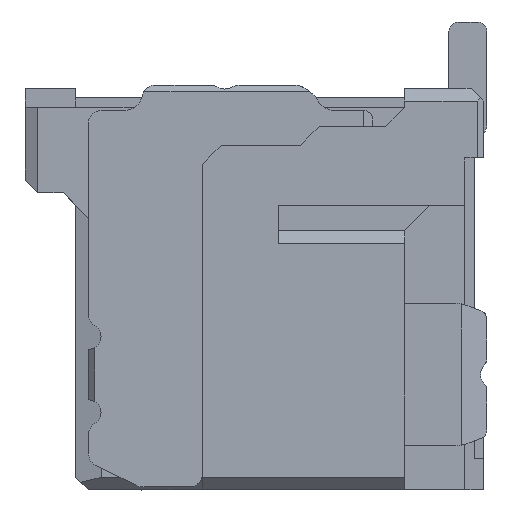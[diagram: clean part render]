
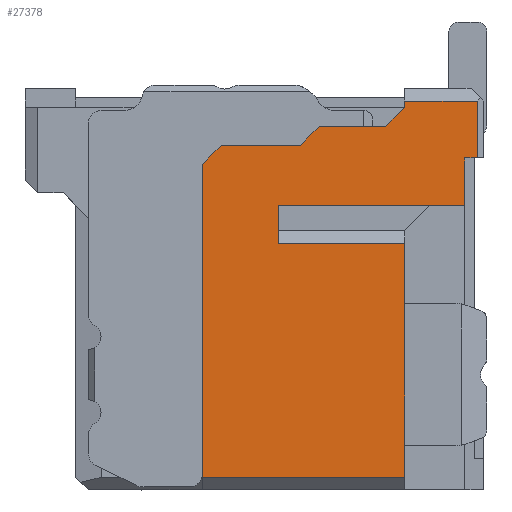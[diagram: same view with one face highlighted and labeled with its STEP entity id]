
A CAD part, front view. The second image highlights one B-rep face of the part: STEP entity #27378.
In plain terms, the highlighted planar face has unit normal (0, -1, 0).
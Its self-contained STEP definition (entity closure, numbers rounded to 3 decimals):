
#202 = CARTESIAN_POINT ( 'NONE',  ( 0.325, -8.15, 2.111 ) ) ;
#209 = LINE ( 'NONE', #40656, #2670 ) ;
#487 = VERTEX_POINT ( 'NONE', #17789 ) ;
#784 = VECTOR ( 'NONE', #40547, 1000. ) ;
#817 = VERTEX_POINT ( 'NONE', #23189 ) ;
#1075 = ORIENTED_EDGE ( 'NONE', *, *, #12939, .T. ) ;
#1115 = EDGE_CURVE ( 'NONE', #487, #20376, #3208, .T. ) ;
#1377 = DIRECTION ( 'NONE',  ( -1., 0., 0. ) ) ;
#1619 = LINE ( 'NONE', #37403, #16799 ) ;
#2164 = VERTEX_POINT ( 'NONE', #32056 ) ;
#2358 = CARTESIAN_POINT ( 'NONE',  ( 2.925, -8.15, 1.161 ) ) ;
#2670 = VECTOR ( 'NONE', #23059, 1000. ) ;
#2944 = EDGE_LOOP ( 'NONE', ( #1075, #56045, #49666, #13038, #22117, #18648, #16351, #22314, #38806, #56372, #3204, #36759, #47464, #39930, #52657, #26518 ) ) ;
#3204 = ORIENTED_EDGE ( 'NONE', *, *, #17599, .T. ) ;
#3208 = LINE ( 'NONE', #12878, #30011 ) ;
#3773 = LINE ( 'NONE', #43341, #37746 ) ;
#3778 = EDGE_CURVE ( 'NONE', #817, #20520, #23131, .T. ) ;
#3920 = CARTESIAN_POINT ( 'NONE',  ( 3.125, -8.15, 2.811 ) ) ;
#4023 = EDGE_CURVE ( 'NONE', #11584, #10372, #25441, .T. ) ;
#4215 = EDGE_CURVE ( 'NONE', #20520, #46443, #209, .T. ) ;
#4266 = VERTEX_POINT ( 'NONE', #31548 ) ;
#5079 = CARTESIAN_POINT ( 'NONE',  ( 1.975, -8.15, 2.711 ) ) ;
#5191 = DIRECTION ( 'NONE',  ( -1., 0., 0. ) ) ;
#5193 = VECTOR ( 'NONE', #38975, 1000. ) ;
#5243 = CARTESIAN_POINT ( 'NONE',  ( 2.925, -8.15, 1.911 ) ) ;
#6939 = EDGE_CURVE ( 'NONE', #46183, #57052, #36122, .T. ) ;
#7738 = EDGE_CURVE ( 'NONE', #22492, #11584, #46497, .T. ) ;
#10372 = VERTEX_POINT ( 'NONE', #5079 ) ;
#10667 = DIRECTION ( 'NONE',  ( 0., 0., 1. ) ) ;
#11584 = VERTEX_POINT ( 'NONE', #18645 ) ;
#12878 = CARTESIAN_POINT ( 'NONE',  ( -1.225, -8.15, -3.139 ) ) ;
#12939 = EDGE_CURVE ( 'NONE', #10372, #817, #1619, .T. ) ;
#13038 = ORIENTED_EDGE ( 'NONE', *, *, #55929, .T. ) ;
#13545 = CARTESIAN_POINT ( 'NONE',  ( -0.025, -8.15, 1.161 ) ) ;
#13928 = VECTOR ( 'NONE', #52383, 1000. ) ;
#14045 = EDGE_CURVE ( 'NONE', #4266, #36080, #41531, .T. ) ;
#14439 = CARTESIAN_POINT ( 'NONE',  ( 2.925, -8.15, 1.911 ) ) ;
#14995 = VECTOR ( 'NONE', #40041, 1000. ) ;
#15965 = LINE ( 'NONE', #19463, #20272 ) ;
#16351 = ORIENTED_EDGE ( 'NONE', *, *, #1115, .T. ) ;
#16799 = VECTOR ( 'NONE', #50275, 1000. ) ;
#16995 = VERTEX_POINT ( 'NONE', #13545 ) ;
#17168 = FACE_OUTER_BOUND ( 'NONE', #2944, .T. ) ;
#17567 = VECTOR ( 'NONE', #43141, 1000. ) ;
#17599 = EDGE_CURVE ( 'NONE', #16995, #41160, #3773, .T. ) ;
#17677 = LINE ( 'NONE', #25586, #56789 ) ;
#17789 = CARTESIAN_POINT ( 'NONE',  ( -1.225, -8.15, -3.139 ) ) ;
#18024 = VECTOR ( 'NONE', #27239, 1000. ) ;
#18048 = PLANE ( 'NONE',  #37045 ) ;
#18645 = CARTESIAN_POINT ( 'NONE',  ( 1.975, -8.15, 2.811 ) ) ;
#18648 = ORIENTED_EDGE ( 'NONE', *, *, #53024, .T. ) ;
#19463 = CARTESIAN_POINT ( 'NONE',  ( 3.125, -8.15, 1.911 ) ) ;
#20272 = VECTOR ( 'NONE', #10667, 1000. ) ;
#20376 = VERTEX_POINT ( 'NONE', #42490 ) ;
#20520 = VERTEX_POINT ( 'NONE', #36203 ) ;
#21031 = CARTESIAN_POINT ( 'NONE',  ( 1.975, -8.15, 2.811 ) ) ;
#21583 = CARTESIAN_POINT ( 'NONE',  ( -1.312, -8.15, 2.93 ) ) ;
#22117 = ORIENTED_EDGE ( 'NONE', *, *, #27384, .T. ) ;
#22141 = LINE ( 'NONE', #44706, #43617 ) ;
#22314 = ORIENTED_EDGE ( 'NONE', *, *, #29056, .T. ) ;
#22492 = VERTEX_POINT ( 'NONE', #3920 ) ;
#23059 = DIRECTION ( 'NONE',  ( -0.707, 0., -0.707 ) ) ;
#23131 = LINE ( 'NONE', #40725, #18024 ) ;
#23189 = CARTESIAN_POINT ( 'NONE',  ( 1.675, -8.15, 2.411 ) ) ;
#24942 = CARTESIAN_POINT ( 'NONE',  ( -1.225, -8.15, 1.811 ) ) ;
#25441 = LINE ( 'NONE', #21031, #13928 ) ;
#25586 = CARTESIAN_POINT ( 'NONE',  ( 1.975, -8.15, -3.139 ) ) ;
#26518 = ORIENTED_EDGE ( 'NONE', *, *, #4023, .T. ) ;
#27239 = DIRECTION ( 'NONE',  ( -1., 0., 0. ) ) ;
#27378 = ADVANCED_FACE ( 'NONE', ( #17168 ), #18048, .F. ) ;
#27384 = EDGE_CURVE ( 'NONE', #2164, #28377, #22141, .T. ) ;
#27424 = CARTESIAN_POINT ( 'NONE',  ( 0.325, -8.15, 2.111 ) ) ;
#28377 = VERTEX_POINT ( 'NONE', #49435 ) ;
#28898 = EDGE_CURVE ( 'NONE', #57052, #22492, #15965, .T. ) ;
#28925 = VECTOR ( 'NONE', #1377, 1000. ) ;
#29056 = EDGE_CURVE ( 'NONE', #20376, #4266, #17677, .T. ) ;
#30011 = VECTOR ( 'NONE', #34569, 1000. ) ;
#31548 = CARTESIAN_POINT ( 'NONE',  ( 1.975, -8.15, 0.561 ) ) ;
#31865 = VECTOR ( 'NONE', #5191, 1000. ) ;
#32056 = CARTESIAN_POINT ( 'NONE',  ( -0.925, -8.15, 2.111 ) ) ;
#34361 = EDGE_CURVE ( 'NONE', #41160, #46183, #53294, .T. ) ;
#34569 = DIRECTION ( 'NONE',  ( 1., 0., 0. ) ) ;
#35021 = DIRECTION ( 'NONE',  ( -0.707, 0., -0.707 ) ) ;
#35124 = CARTESIAN_POINT ( 'NONE',  ( 2.925, -8.15, 1.161 ) ) ;
#35440 = CARTESIAN_POINT ( 'NONE',  ( 3.125, -8.15, 1.911 ) ) ;
#36080 = VERTEX_POINT ( 'NONE', #52870 ) ;
#36122 = LINE ( 'NONE', #14439, #784 ) ;
#36203 = CARTESIAN_POINT ( 'NONE',  ( 0.625, -8.15, 2.411 ) ) ;
#36759 = ORIENTED_EDGE ( 'NONE', *, *, #34361, .T. ) ;
#36842 = CARTESIAN_POINT ( 'NONE',  ( 1.975, -8.15, 0.561 ) ) ;
#37045 = AXIS2_PLACEMENT_3D ( 'NONE', #21583, #52887, #43846 ) ;
#37403 = CARTESIAN_POINT ( 'NONE',  ( 1.975, -8.15, 2.711 ) ) ;
#37746 = VECTOR ( 'NONE', #39231, 1000. ) ;
#37779 = EDGE_CURVE ( 'NONE', #36080, #16995, #44279, .T. ) ;
#38455 = LINE ( 'NONE', #24942, #17567 ) ;
#38806 = ORIENTED_EDGE ( 'NONE', *, *, #14045, .T. ) ;
#38975 = DIRECTION ( 'NONE',  ( 0., 0., 1. ) ) ;
#39231 = DIRECTION ( 'NONE',  ( 1., 0., 0. ) ) ;
#39597 = DIRECTION ( 'NONE',  ( 0., 0., 1. ) ) ;
#39930 = ORIENTED_EDGE ( 'NONE', *, *, #28898, .T. ) ;
#40041 = DIRECTION ( 'NONE',  ( -1., 0., 0. ) ) ;
#40547 = DIRECTION ( 'NONE',  ( 1., 0., 0. ) ) ;
#40656 = CARTESIAN_POINT ( 'NONE',  ( 0.625, -8.15, 2.411 ) ) ;
#40725 = CARTESIAN_POINT ( 'NONE',  ( 1.675, -8.15, 2.411 ) ) ;
#41160 = VERTEX_POINT ( 'NONE', #2358 ) ;
#41531 = LINE ( 'NONE', #36842, #31865 ) ;
#42490 = CARTESIAN_POINT ( 'NONE',  ( 1.975, -8.15, -3.139 ) ) ;
#43141 = DIRECTION ( 'NONE',  ( 0., 0., -1. ) ) ;
#43341 = CARTESIAN_POINT ( 'NONE',  ( -0.025, -8.15, 1.161 ) ) ;
#43617 = VECTOR ( 'NONE', #35021, 1000. ) ;
#43846 = DIRECTION ( 'NONE',  ( 1., 0., 0. ) ) ;
#44279 = LINE ( 'NONE', #52480, #47602 ) ;
#44706 = CARTESIAN_POINT ( 'NONE',  ( -0.925, -8.15, 2.111 ) ) ;
#46183 = VERTEX_POINT ( 'NONE', #5243 ) ;
#46443 = VERTEX_POINT ( 'NONE', #202 ) ;
#46497 = LINE ( 'NONE', #55554, #28925 ) ;
#47464 = ORIENTED_EDGE ( 'NONE', *, *, #6939, .T. ) ;
#47602 = VECTOR ( 'NONE', #39597, 1000. ) ;
#49435 = CARTESIAN_POINT ( 'NONE',  ( -1.225, -8.15, 1.811 ) ) ;
#49666 = ORIENTED_EDGE ( 'NONE', *, *, #4215, .T. ) ;
#50275 = DIRECTION ( 'NONE',  ( -0.707, 0., -0.707 ) ) ;
#52235 = DIRECTION ( 'NONE',  ( 0., 0., 1. ) ) ;
#52383 = DIRECTION ( 'NONE',  ( 0., 0., -1. ) ) ;
#52480 = CARTESIAN_POINT ( 'NONE',  ( -0.025, -8.15, 0.561 ) ) ;
#52657 = ORIENTED_EDGE ( 'NONE', *, *, #7738, .T. ) ;
#52870 = CARTESIAN_POINT ( 'NONE',  ( -0.025, -8.15, 0.561 ) ) ;
#52887 = DIRECTION ( 'NONE',  ( 0., 1., 0. ) ) ;
#53024 = EDGE_CURVE ( 'NONE', #28377, #487, #38455, .T. ) ;
#53294 = LINE ( 'NONE', #35124, #5193 ) ;
#54049 = LINE ( 'NONE', #27424, #14995 ) ;
#55554 = CARTESIAN_POINT ( 'NONE',  ( 3.125, -8.15, 2.811 ) ) ;
#55929 = EDGE_CURVE ( 'NONE', #46443, #2164, #54049, .T. ) ;
#56045 = ORIENTED_EDGE ( 'NONE', *, *, #3778, .T. ) ;
#56372 = ORIENTED_EDGE ( 'NONE', *, *, #37779, .T. ) ;
#56789 = VECTOR ( 'NONE', #52235, 1000. ) ;
#57052 = VERTEX_POINT ( 'NONE', #35440 ) ;
